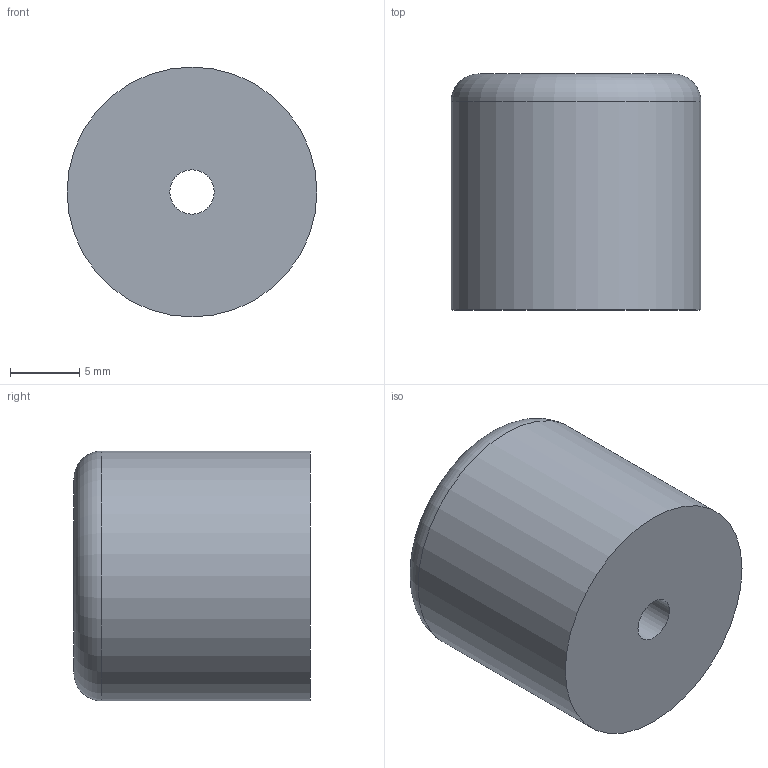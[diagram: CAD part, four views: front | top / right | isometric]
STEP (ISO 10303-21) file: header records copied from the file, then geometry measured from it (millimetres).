
FILE_DESCRIPTION(/* description */ ('Feed'),/* implementation_level */ '2;1');
FILE_NAME(/* name */ 'Z:\Werkstatt Server\Projekte\Atlas\Entwicklung u. Konstruktion\Konstruktion\CAD Daten\ITkPixToolV2.0\Flex Jig\ITPTv2.02.00.05.stp',/* time_stamp */ '2021-08-06T14:28:42+02:00',/* author */ ('Tim Kanngießer'),/* organization */ (''),/* preprocessor_version */ 'ST-DEVELOPER v18.1',/* originating_system */ 'Autodesk Inventor 2022',/* authorisation */ '');
FILE_SCHEMA (('AUTOMOTIVE_DESIGN { 1 0 10303 214 3 1 1 }'));
Length unit declared in the file: millimetre
Products named in the file (1): ITPTv2.02.00.05
Bounding box: 18 x 17 x 18 mm (x, y, z)
Volume: 4062.2 mm3; surface area: 1609.9 mm2
Topology: 1 solids, 1 shells, 7 faces, 11 edges, 7 vertices
Faces by surface type: plane 3, cylinder 3, torus 1
Full cylindrical faces by diameter (mm): 3.2 x1, 6 x1, 18 x1
Entity records: 210 total; most frequent: DIRECTION 35, CARTESIAN_POINT 26, ORIENTED_EDGE 22, AXIS2_PLACEMENT_3D 16, EDGE_CURVE 11, EDGE_LOOP 10, CIRCLE 8, FACE_OUTER_BOUND 7
